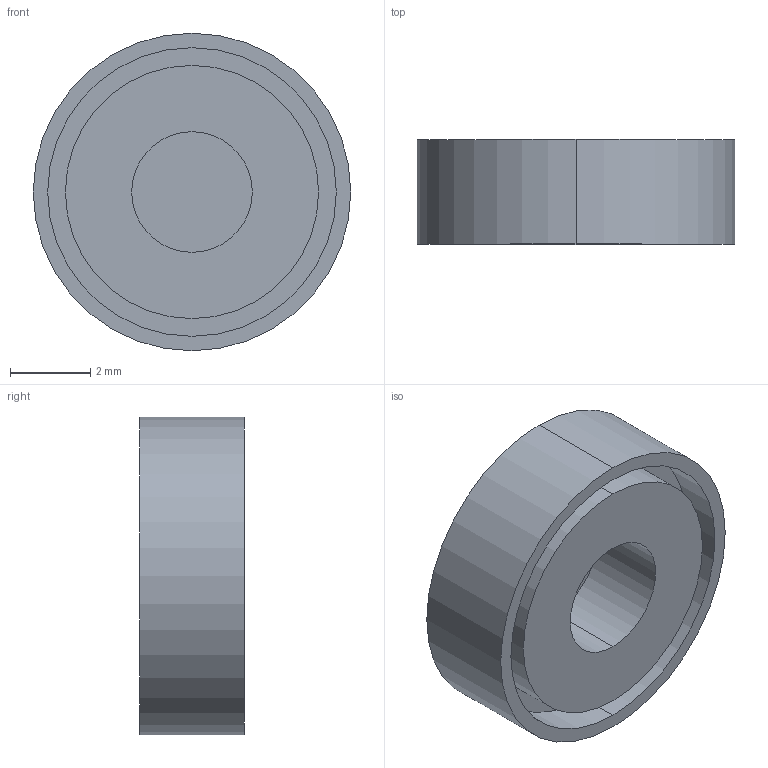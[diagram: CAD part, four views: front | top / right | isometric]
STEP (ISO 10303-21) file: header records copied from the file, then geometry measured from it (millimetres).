
FILE_DESCRIPTION (( 'STEP AP214' ), '1' );
FILE_NAME ('Pulsador verd PP75.STEP', '2017-10-05T07:40:33', ( 'aaa' ), ( '' ), 'SwSTEP 2.0', 'SolidWorks 2013', '' );
FILE_SCHEMA (( 'AUTOMOTIVE_DESIGN' ));
Length unit declared in the file: millimetre
Products named in the file (1): Pulsador verd PP75
Bounding box: 7.9 x 2.6 x 7.9 mm (x, y, z)
Volume: 103.7 mm3; surface area: 224.1 mm2
Topology: 1 solids, 1 shells, 13 faces, 24 edges, 16 vertices
Faces by surface type: cylinder 8, plane 5
Entity records: 368 total; most frequent: DIRECTION 68, CARTESIAN_POINT 54, ORIENTED_EDGE 48, AXIS2_PLACEMENT_3D 30, EDGE_CURVE 24, VERTEX_POINT 16, EDGE_LOOP 16, CIRCLE 16
